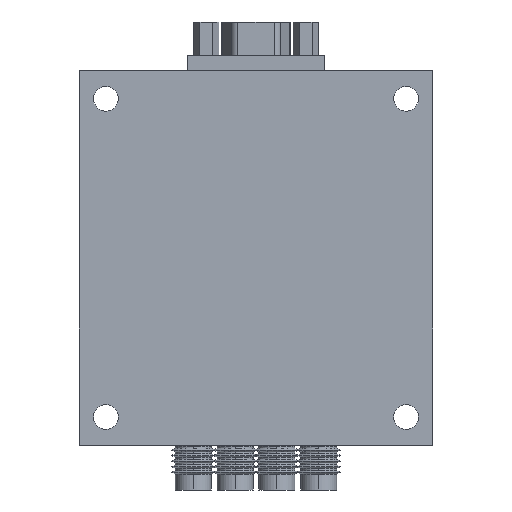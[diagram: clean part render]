
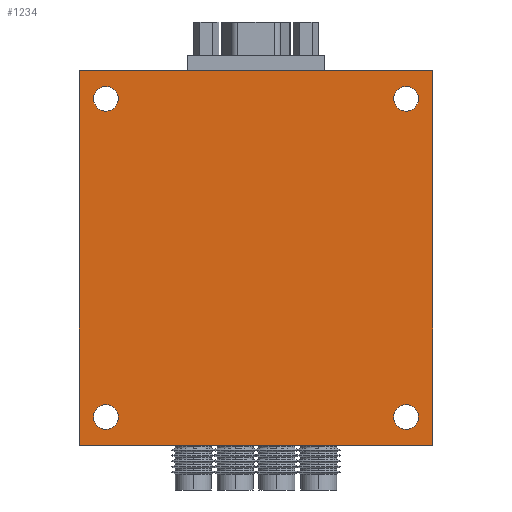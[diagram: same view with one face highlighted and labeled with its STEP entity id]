
A CAD part, front view. The second image highlights one B-rep face of the part: STEP entity #1234.
In plain terms, the highlighted planar face has unit normal (0, -1, 0).
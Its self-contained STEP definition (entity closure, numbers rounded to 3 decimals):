
#60 = DIRECTION ( 'NONE',  ( 0., 0., 1. ) ) ;
#63 = DIRECTION ( 'NONE',  ( 0., 1., 0. ) ) ;
#65 = CARTESIAN_POINT ( 'NONE',  ( -21.59, -1.562, 22.885 ) ) ;
#142 = EDGE_CURVE ( 'NONE', #686, #694, #2248, .T. ) ;
#585 = VERTEX_POINT ( 'NONE', #2965 ) ;
#589 = VERTEX_POINT ( 'NONE', #2958 ) ;
#600 = EDGE_CURVE ( 'NONE', #585, #589, #3037, .T. ) ;
#686 = VERTEX_POINT ( 'NONE', #3132 ) ;
#694 = VERTEX_POINT ( 'NONE', #3182 ) ;
#1068 = EDGE_CURVE ( 'NONE', #1069, #1070, #3942, .T. ) ;
#1069 = VERTEX_POINT ( 'NONE', #3933 ) ;
#1070 = VERTEX_POINT ( 'NONE', #3932 ) ;
#1085 = EDGE_CURVE ( 'NONE', #1086, #1087, #3966, .T. ) ;
#1086 = VERTEX_POINT ( 'NONE', #3961 ) ;
#1087 = VERTEX_POINT ( 'NONE', #3960 ) ;
#1134 = VERTEX_POINT ( 'NONE', #4057 ) ;
#1136 = EDGE_CURVE ( 'NONE', #1134, #1137, #4056, .T. ) ;
#1137 = VERTEX_POINT ( 'NONE', #4052 ) ;
#1176 = EDGE_CURVE ( 'NONE', #1202, #1212, #4179, .T. ) ;
#1202 = VERTEX_POINT ( 'NONE', #4270 ) ;
#1212 = VERTEX_POINT ( 'NONE', #4295 ) ;
#1214 = EDGE_CURVE ( 'NONE', #1212, #1134, #4294, .T. ) ;
#1219 = ORIENTED_EDGE ( 'NONE', *, *, #1220, .T. ) ;
#1220 = EDGE_CURVE ( 'NONE', #1087, #1086, #4285, .T. ) ;
#1221 = ORIENTED_EDGE ( 'NONE', *, *, #1085, .T. ) ;
#1222 = EDGE_LOOP ( 'NONE', ( #1223, #1225 ) ) ;
#1223 = ORIENTED_EDGE ( 'NONE', *, *, #1224, .T. ) ;
#1224 = EDGE_CURVE ( 'NONE', #1070, #1069, #4337, .T. ) ;
#1225 = ORIENTED_EDGE ( 'NONE', *, *, #1068, .T. ) ;
#1226 = EDGE_LOOP ( 'NONE', ( #1227, #1228, #1229, #1230 ) ) ;
#1227 = ORIENTED_EDGE ( 'NONE', *, *, #1136, .F. ) ;
#1228 = ORIENTED_EDGE ( 'NONE', *, *, #1214, .F. ) ;
#1229 = ORIENTED_EDGE ( 'NONE', *, *, #1176, .F. ) ;
#1230 = ORIENTED_EDGE ( 'NONE', *, *, #1249, .F. ) ;
#1234 = ADVANCED_FACE ( 'NONE', ( #4321, #4320, #4319, #4318, #4317 ), #4360, .T. ) ;
#1235 = EDGE_LOOP ( 'NONE', ( #1236, #1239 ) ) ;
#1236 = ORIENTED_EDGE ( 'NONE', *, *, #1238, .T. ) ;
#1238 = EDGE_CURVE ( 'NONE', #589, #585, #4354, .T. ) ;
#1239 = ORIENTED_EDGE ( 'NONE', *, *, #600, .T. ) ;
#1240 = EDGE_LOOP ( 'NONE', ( #1241, #1243 ) ) ;
#1241 = ORIENTED_EDGE ( 'NONE', *, *, #1242, .T. ) ;
#1242 = EDGE_CURVE ( 'NONE', #694, #686, #4350, .T. ) ;
#1243 = ORIENTED_EDGE ( 'NONE', *, *, #142, .T. ) ;
#1244 = EDGE_LOOP ( 'NONE', ( #1219, #1221 ) ) ;
#1249 = EDGE_CURVE ( 'NONE', #1137, #1202, #4345, .T. ) ;
#2247 = AXIS2_PLACEMENT_3D ( 'NONE', #65, #63, #60 ) ;
#2248 = CIRCLE ( 'NONE', #2247, 1.778 ) ;
#2958 = CARTESIAN_POINT ( 'NONE',  ( -21.59, -1.562, -21.107 ) ) ;
#2965 = CARTESIAN_POINT ( 'NONE',  ( -21.59, -1.562, -24.663 ) ) ;
#3033 = DIRECTION ( 'NONE',  ( 0., 0., 1. ) ) ;
#3034 = DIRECTION ( 'NONE',  ( 0., 1., 0. ) ) ;
#3035 = CARTESIAN_POINT ( 'NONE',  ( -21.59, -1.562, -22.885 ) ) ;
#3036 = AXIS2_PLACEMENT_3D ( 'NONE', #3035, #3034, #3033 ) ;
#3037 = CIRCLE ( 'NONE', #3036, 1.778 ) ;
#3132 = CARTESIAN_POINT ( 'NONE',  ( -21.59, -1.562, 21.107 ) ) ;
#3182 = CARTESIAN_POINT ( 'NONE',  ( -21.59, -1.562, 24.663 ) ) ;
#3932 = CARTESIAN_POINT ( 'NONE',  ( 21.59, -1.562, -21.107 ) ) ;
#3933 = CARTESIAN_POINT ( 'NONE',  ( 21.59, -1.562, -24.663 ) ) ;
#3934 = DIRECTION ( 'NONE',  ( 0., 0., 1. ) ) ;
#3935 = DIRECTION ( 'NONE',  ( 0., 1., 0. ) ) ;
#3936 = CARTESIAN_POINT ( 'NONE',  ( 21.59, -1.562, -22.885 ) ) ;
#3937 = AXIS2_PLACEMENT_3D ( 'NONE', #3936, #3935, #3934 ) ;
#3942 = CIRCLE ( 'NONE', #3937, 1.778 ) ;
#3960 = CARTESIAN_POINT ( 'NONE',  ( 21.59, -1.562, 24.663 ) ) ;
#3961 = CARTESIAN_POINT ( 'NONE',  ( 21.59, -1.562, 21.107 ) ) ;
#3962 = DIRECTION ( 'NONE',  ( 0., 0., 1. ) ) ;
#3963 = DIRECTION ( 'NONE',  ( 0., 1., 0. ) ) ;
#3964 = CARTESIAN_POINT ( 'NONE',  ( 21.59, -1.562, 22.885 ) ) ;
#3965 = AXIS2_PLACEMENT_3D ( 'NONE', #3964, #3963, #3962 ) ;
#3966 = CIRCLE ( 'NONE', #3965, 1.778 ) ;
#4052 = CARTESIAN_POINT ( 'NONE',  ( 25.4, -1.562, -26.924 ) ) ;
#4053 = DIRECTION ( 'NONE',  ( 0., 0., -1. ) ) ;
#4054 = VECTOR ( 'NONE', #4053, 1000. ) ;
#4055 = CARTESIAN_POINT ( 'NONE',  ( 25.4, -1.562, 26.924 ) ) ;
#4056 = LINE ( 'NONE', #4055, #4054 ) ;
#4057 = CARTESIAN_POINT ( 'NONE',  ( 25.4, -1.562, 26.924 ) ) ;
#4172 = DIRECTION ( 'NONE',  ( 0., 0., 1. ) ) ;
#4173 = VECTOR ( 'NONE', #4172, 1000. ) ;
#4174 = CARTESIAN_POINT ( 'NONE',  ( -25.4, -1.562, 26.924 ) ) ;
#4179 = LINE ( 'NONE', #4174, #4173 ) ;
#4270 = CARTESIAN_POINT ( 'NONE',  ( -25.4, -1.562, -26.924 ) ) ;
#4285 = CIRCLE ( 'NONE', #4341, 1.778 ) ;
#4291 = DIRECTION ( 'NONE',  ( 1., 0., 0. ) ) ;
#4292 = VECTOR ( 'NONE', #4291, 1000. ) ;
#4293 = CARTESIAN_POINT ( 'NONE',  ( -25.4, -1.562, 26.924 ) ) ;
#4294 = LINE ( 'NONE', #4293, #4292 ) ;
#4295 = CARTESIAN_POINT ( 'NONE',  ( -25.4, -1.562, 26.924 ) ) ;
#4317 = FACE_OUTER_BOUND ( 'NONE', #1226, .T. ) ;
#4318 = FACE_BOUND ( 'NONE', #1222, .T. ) ;
#4319 = FACE_BOUND ( 'NONE', #1244, .T. ) ;
#4320 = FACE_BOUND ( 'NONE', #1240, .T. ) ;
#4321 = FACE_BOUND ( 'NONE', #1235, .T. ) ;
#4333 = DIRECTION ( 'NONE',  ( 0., 0., 1. ) ) ;
#4334 = DIRECTION ( 'NONE',  ( 0., 1., 0. ) ) ;
#4335 = CARTESIAN_POINT ( 'NONE',  ( 21.59, -1.562, -22.885 ) ) ;
#4336 = AXIS2_PLACEMENT_3D ( 'NONE', #4335, #4334, #4333 ) ;
#4337 = CIRCLE ( 'NONE', #4336, 1.778 ) ;
#4338 = DIRECTION ( 'NONE',  ( 0., 0., 1. ) ) ;
#4339 = DIRECTION ( 'NONE',  ( 0., 1., 0. ) ) ;
#4340 = CARTESIAN_POINT ( 'NONE',  ( 21.59, -1.562, 22.885 ) ) ;
#4341 = AXIS2_PLACEMENT_3D ( 'NONE', #4340, #4339, #4338 ) ;
#4342 = DIRECTION ( 'NONE',  ( -1., 0., 0. ) ) ;
#4343 = VECTOR ( 'NONE', #4342, 1000. ) ;
#4344 = CARTESIAN_POINT ( 'NONE',  ( -25.4, -1.562, -26.924 ) ) ;
#4345 = LINE ( 'NONE', #4344, #4343 ) ;
#4346 = DIRECTION ( 'NONE',  ( 0., 0., 1. ) ) ;
#4347 = DIRECTION ( 'NONE',  ( 0., 1., 0. ) ) ;
#4348 = CARTESIAN_POINT ( 'NONE',  ( -21.59, -1.562, 22.885 ) ) ;
#4349 = AXIS2_PLACEMENT_3D ( 'NONE', #4348, #4347, #4346 ) ;
#4350 = CIRCLE ( 'NONE', #4349, 1.778 ) ;
#4351 = DIRECTION ( 'NONE',  ( 0., 0., 1. ) ) ;
#4352 = DIRECTION ( 'NONE',  ( 0., 1., 0. ) ) ;
#4353 = AXIS2_PLACEMENT_3D ( 'NONE', #4359, #4352, #4351 ) ;
#4354 = CIRCLE ( 'NONE', #4353, 1.778 ) ;
#4355 = DIRECTION ( 'NONE',  ( 0., 0., -1. ) ) ;
#4356 = DIRECTION ( 'NONE',  ( 0., -1., 0. ) ) ;
#4357 = CARTESIAN_POINT ( 'NONE',  ( 25.4, -1.562, -26.924 ) ) ;
#4358 = AXIS2_PLACEMENT_3D ( 'NONE', #4357, #4356, #4355 ) ;
#4359 = CARTESIAN_POINT ( 'NONE',  ( -21.59, -1.562, -22.885 ) ) ;
#4360 = PLANE ( 'NONE',  #4358 ) ;
